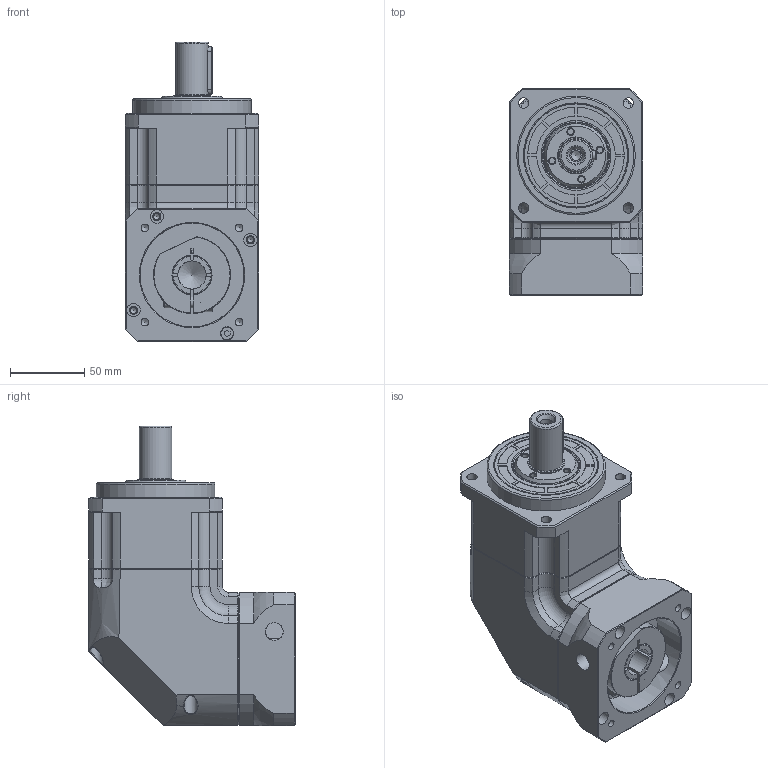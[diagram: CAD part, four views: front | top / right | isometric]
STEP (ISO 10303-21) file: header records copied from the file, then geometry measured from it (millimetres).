
FILE_DESCRIPTION(/* description */ (''),/* implementation_level */ '2;1');
FILE_NAME(/* name */ 'TBR090-L1-19-70-90-M5-49-6.stp',/* time_stamp */ '2020-11-24T17:10:10+08:00',/* author */ (''),/* organization */ (''),/* preprocessor_version */ 'ST-DEVELOPER v16',/* originating_system */ 'SIEMENS PLM Software NX 10.0',/* authorisation */ '');
FILE_SCHEMA (('CONFIG_CONTROL_DESIGN'));
Length unit declared in the file: millimetre
Products named in the file (1): _model296
Bounding box: 90 x 139 x 202 mm (x, y, z)
Volume: 916568.9 mm3; surface area: 212038.2 mm2
Topology: 10 solids, 11 shells, 716 faces, 1724 edges, 1099 vertices
Faces by surface type: plane 313, cylinder 230, cone 115, torus 40, bspline 18
Full cylindrical faces by diameter (mm): 4 x4, 4.2 x8, 5 x2, 5.1 x4, 5.276 x6, 5.5 x8, 6.8 x2, 7 x4, 8 x1, 8.4 x1, 8.5 x3, 9 x8, 12 x2, 13 x2, 13.5 x1, 19 x1, 22 x2, 22.8 x1, 23 x2, 24 x1, 25 x1, 28 x1, 28.6 x1, 29 x2, 29.2 x1, 30 x3, 32.54 x1, 33 x1, 33.6 x1, 43 x1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
Entity records: 21079 total; most frequent: CARTESIAN_POINT 5296, DIRECTION 3330, ORIENTED_EDGE 2910, EDGE_CURVE 1455, AXIS2_PLACEMENT_3D 1355, VERTEX_POINT 1038, EDGE_LOOP 1037, ADVANCED_FACE 716
